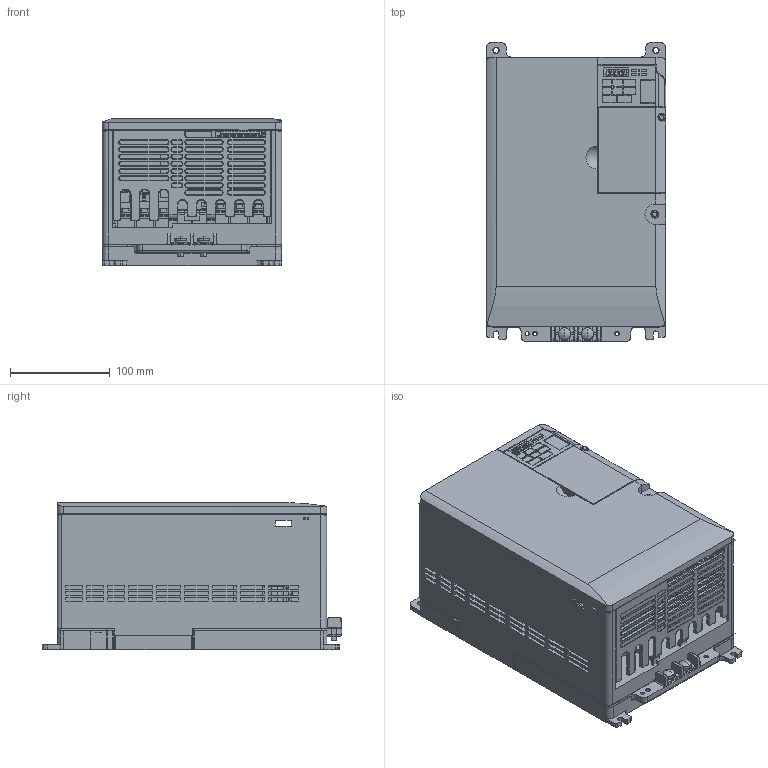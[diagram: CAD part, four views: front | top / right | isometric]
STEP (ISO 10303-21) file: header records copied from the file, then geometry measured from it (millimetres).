
FILE_DESCRIPTION((''),'2;1');
FILE_NAME('VU2A0056JAA_ASM','2010-03-29T',('jmattas'),(''),'PRO/ENGINEER BY PARAMETRIC TECHNOLOGY CORPORATION, 2009380','PRO/ENGINEER BY PARAMETRIC TECHNOLOGY CORPORATION, 2009380','');
FILE_SCHEMA(('CONFIG_CONTROL_DESIGN'));
Products named in the file (7): VU2A0056JAA_BASE; VU2A0056JAA_COVER1; VU2A0056JAA_COVER2; VU2A0056JAA_COVER3; VU2A0056JAA_COVER4; VU2A0056JAA_COVER5; VU2A0056JAA_ASM
Assembly tree (6 placements, depth 2):
  VU2A0056JAA_ASM
    VU2A0056JAA_BASE
    VU2A0056JAA_COVER1
    VU2A0056JAA_COVER2
    VU2A0056JAA_COVER3
    VU2A0056JAA_COVER4
    VU2A0056JAA_COVER5
Bounding box: 180.02 x 300 x 147.35 mm (x, y, z)
Volume: 203535.4 mm3; surface area: 728594.7 mm2
Topology: 5 solids, 11 shells, 7213 faces, 20567 edges, 13414 vertices
Faces by surface type: plane 5246, cylinder 1288, extrusion 236, torus 200, sphere 114, cone 86, bspline 43
Entity records: 240714 total; most frequent: CARTESIAN_POINT 52183, ORIENTED_EDGE 40830, DIRECTION 36544, EDGE_CURVE 20555, VECTOR 16058, LINE 15822, VERTEX_POINT 13414, AXIS2_PLACEMENT_3D 10243
